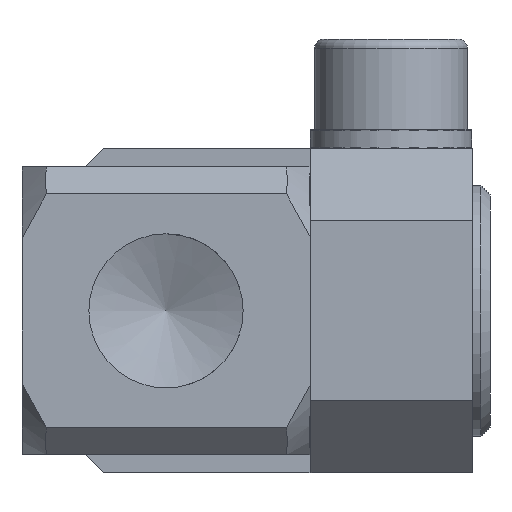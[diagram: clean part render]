
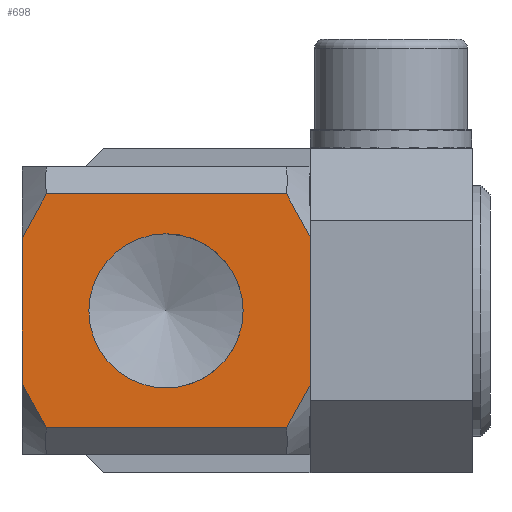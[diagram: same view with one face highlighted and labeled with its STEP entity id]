
A CAD part, front view. The second image highlights one B-rep face of the part: STEP entity #698.
In plain terms, the highlighted planar face has unit normal (0, -1, 0).
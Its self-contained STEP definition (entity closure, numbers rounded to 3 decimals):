
#698=ADVANCED_FACE('',(#1557,#1558),#1559,.T.);
#1557=FACE_OUTER_BOUND('',#2704,.T.);
#1558=FACE_BOUND('',#2705,.T.);
#1559=PLANE('',#2706);
#2704=EDGE_LOOP('',(#7623,#7624,#7625,#7626,#7627,#7628,#7629,#7630));
#2705=EDGE_LOOP('',(#7631));
#2706=AXIS2_PLACEMENT_3D('',#7632,#7633,#7634);
#7623=ORIENTED_EDGE('',*,*,#10519,.F.);
#7624=ORIENTED_EDGE('',*,*,#10565,.T.);
#7625=ORIENTED_EDGE('',*,*,#10524,.F.);
#7626=ORIENTED_EDGE('',*,*,#10568,.T.);
#7627=ORIENTED_EDGE('',*,*,#10576,.F.);
#7628=ORIENTED_EDGE('',*,*,#10502,.T.);
#7629=ORIENTED_EDGE('',*,*,#10497,.F.);
#7630=ORIENTED_EDGE('',*,*,#10572,.F.);
#7631=ORIENTED_EDGE('',*,*,#10574,.T.);
#7632=CARTESIAN_POINT('',(-8.0,-8.0,8.0));
#7633=DIRECTION('',(0.0,-1.0,0.0));
#7634=DIRECTION('',(0.0,0.0,-1.0));
#10497=EDGE_CURVE('',#11753,#11754,#11755,.T.);
#10502=EDGE_CURVE('',#11762,#11754,#11763,.T.);
#10519=EDGE_CURVE('',#11790,#11792,#11793,.T.);
#10524=EDGE_CURVE('',#11799,#11801,#11802,.T.);
#10565=EDGE_CURVE('',#11790,#11801,#11859,.T.);
#10568=EDGE_CURVE('',#11799,#11861,#11863,.T.);
#10572=EDGE_CURVE('',#11792,#11753,#11867,.T.);
#10574=EDGE_CURVE('',#11869,#11869,#11870,.T.);
#10576=EDGE_CURVE('',#11762,#11861,#11872,.T.);
#11753=VERTEX_POINT('',#13675);
#11754=VERTEX_POINT('',#13676);
#11755=B_SPLINE_CURVE_WITH_KNOTS('',3,(#13677,#13678,#13679,#13680),.UNSPECIFIED.,.F.,.F.,(4,4),(0.021,0.024),.UNSPECIFIED.);
#11762=VERTEX_POINT('',#13693);
#11763=LINE('',#13694,#13695);
#11790=VERTEX_POINT('',#13757);
#11792=VERTEX_POINT('',#13762);
#11793=B_SPLINE_CURVE_WITH_KNOTS('',3,(#13763,#13764,#13765,#13766),.UNSPECIFIED.,.F.,.F.,(4,4),(0.01,0.013),.UNSPECIFIED.);
#11799=VERTEX_POINT('',#13775);
#11801=VERTEX_POINT('',#13777);
#11802=B_SPLINE_CURVE_WITH_KNOTS('',3,(#13778,#13779,#13780,#13781),.UNSPECIFIED.,.F.,.F.,(4,4),(0.021,0.024),.UNSPECIFIED.);
#11859=LINE('',#13851,#13852);
#11861=VERTEX_POINT('',#13854);
#11863=LINE('',#13856,#13857);
#11867=LINE('',#13863,#13864);
#11869=VERTEX_POINT('',#13866);
#11870=CIRCLE('',#13867,4.283);
#11872=B_SPLINE_CURVE_WITH_KNOTS('',3,(#13869,#13870,#13871,#13872),.UNSPECIFIED.,.F.,.F.,(4,4),(0.01,0.013),.UNSPECIFIED.);
#13675=CARTESIAN_POINT('',(-4.123,-8.0,-8.0));
#13676=CARTESIAN_POINT('',(-6.5,-8.0,-6.692));
#13677=CARTESIAN_POINT('',(-4.123,-8.0,-8.));
#13678=CARTESIAN_POINT('',(-4.952,-8.0,-7.62));
#13679=CARTESIAN_POINT('',(-5.737,-8.0,-7.174));
#13680=CARTESIAN_POINT('',(-6.5,-8.0,-6.692));
#13693=CARTESIAN_POINT('',(-6.5,-8.0,6.646));
#13694=CARTESIAN_POINT('',(-6.5,-8.0,8.0));
#13695=VECTOR('',#17163,1.0);
#13757=CARTESIAN_POINT('',(6.5,-8.0,-6.692));
#13762=CARTESIAN_POINT('',(4.123,-8.0,-8.0));
#13763=CARTESIAN_POINT('',(6.5,-8.0,-6.692));
#13764=CARTESIAN_POINT('',(5.735,-8.0,-7.174));
#13765=CARTESIAN_POINT('',(4.95,-8.0,-7.621));
#13766=CARTESIAN_POINT('',(4.123,-8.0,-8.));
#13775=CARTESIAN_POINT('',(4.021,-8.0,8.0));
#13777=CARTESIAN_POINT('',(6.5,-8.0,6.646));
#13778=CARTESIAN_POINT('',(4.021,-8.0,8.));
#13779=CARTESIAN_POINT('',(4.887,-8.0,7.611));
#13780=CARTESIAN_POINT('',(5.706,-8.0,7.147));
#13781=CARTESIAN_POINT('',(6.5,-8.0,6.646));
#13851=CARTESIAN_POINT('',(6.5,-8.0,8.0));
#13852=VECTOR('',#17232,1.0);
#13854=CARTESIAN_POINT('',(-4.021,-8.0,8.0));
#13856=CARTESIAN_POINT('',(-8.0,-8.0,8.0));
#13857=VECTOR('',#17236,1.0);
#13863=CARTESIAN_POINT('',(-8.0,-8.0,-8.0));
#13864=VECTOR('',#17239,1.0);
#13866=CARTESIAN_POINT('',(0.0,-8.0,-4.283));
#13867=AXIS2_PLACEMENT_3D('',#17240,#17241,#17242);
#13869=CARTESIAN_POINT('',(-6.5,-8.0,6.646));
#13870=CARTESIAN_POINT('',(-5.704,-8.0,7.148));
#13871=CARTESIAN_POINT('',(-4.885,-8.0,7.612));
#13872=CARTESIAN_POINT('',(-4.021,-8.0,8.));
#17163=DIRECTION('',(0.0,0.0,-1.0));
#17232=DIRECTION('',(0.0,0.0,1.0));
#17236=DIRECTION('',(-1.0,0.0,0.0));
#17239=DIRECTION('',(-1.0,0.0,0.0));
#17240=CARTESIAN_POINT('',(0.0,-8.0,0.));
#17241=DIRECTION('',(0.0,1.0,0.0));
#17242=DIRECTION('',(0.0,0.0,-1.0));
